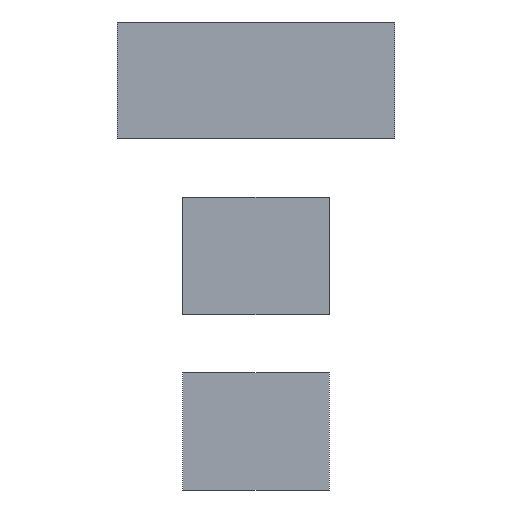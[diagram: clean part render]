
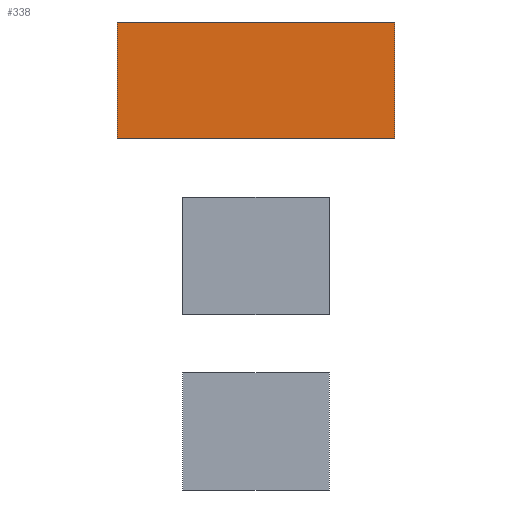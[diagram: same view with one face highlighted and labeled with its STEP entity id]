
A CAD part, front view. The second image highlights one B-rep face of the part: STEP entity #338.
In plain terms, the highlighted planar face has unit normal (0, -1, 0).
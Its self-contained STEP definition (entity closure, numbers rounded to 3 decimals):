
#87=DIRECTION('',(0.,0.,1.));
#88=VECTOR('',#87,80.);
#89=CARTESIAN_POINT('',(-95.,89.,-40.));
#90=LINE('',#89,#88);
#91=DIRECTION('',(1.,0.,0.));
#92=VECTOR('',#91,190.);
#93=CARTESIAN_POINT('',(-95.,89.,40.));
#94=LINE('',#93,#92);
#95=DIRECTION('',(0.,0.,-1.));
#96=VECTOR('',#95,80.);
#97=CARTESIAN_POINT('',(95.,89.,40.));
#98=LINE('',#97,#96);
#99=DIRECTION('',(-1.,0.,0.));
#100=VECTOR('',#99,190.);
#101=CARTESIAN_POINT('',(95.,89.,-40.));
#102=LINE('',#101,#100);
#149=CARTESIAN_POINT('',(-95.,89.,-40.));
#150=CARTESIAN_POINT('',(-95.,89.,40.));
#151=VERTEX_POINT('',#149);
#152=VERTEX_POINT('',#150);
#153=CARTESIAN_POINT('',(95.,89.,40.));
#154=VERTEX_POINT('',#153);
#155=CARTESIAN_POINT('',(95.,89.,-40.));
#156=VERTEX_POINT('',#155);
#324=CARTESIAN_POINT('',(0.,89.,0.));
#325=DIRECTION('',(0.,-1.,0.));
#326=DIRECTION('',(-1.,0.,0.));
#327=AXIS2_PLACEMENT_3D('',#324,#325,#326);
#328=PLANE('',#327);
#329=ORIENTED_EDGE('',*,*,#314,.T.);
#331=ORIENTED_EDGE('',*,*,#330,.T.);
#333=ORIENTED_EDGE('',*,*,#332,.T.);
#335=ORIENTED_EDGE('',*,*,#334,.T.);
#336=EDGE_LOOP('',(#329,#331,#333,#335));
#337=FACE_OUTER_BOUND('',#336,.F.);
#338=ADVANCED_FACE('',(#337),#328,.T.);
#314=EDGE_CURVE('',#151,#152,#90,.T.);
#330=EDGE_CURVE('',#152,#154,#94,.T.);
#332=EDGE_CURVE('',#154,#156,#98,.T.);
#334=EDGE_CURVE('',#156,#151,#102,.T.);
